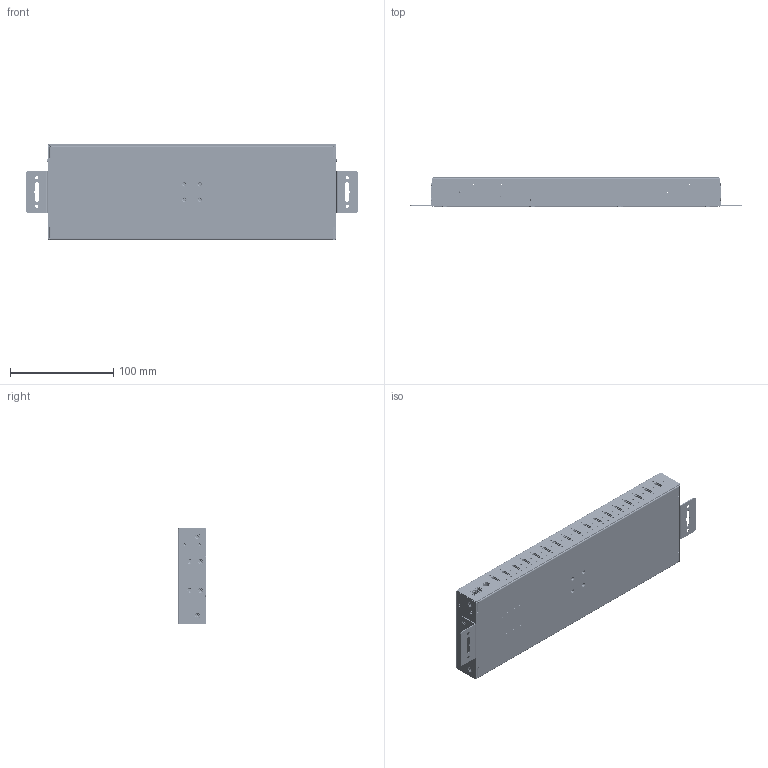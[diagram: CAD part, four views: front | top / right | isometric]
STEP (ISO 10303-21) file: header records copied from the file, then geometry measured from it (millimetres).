
FILE_DESCRIPTION(/* description */ (''),/* implementation_level */ '2;1');
FILE_NAME(/* name */ 'GM-HU316C-RM_Model3D_JWV1.step',/* time_stamp */ '2025-02-04T12:10:42-05:00',/* author */ (''),/* organization */ (''),/* preprocessor_version */ 'ST-DEVELOPER v20',/* originating_system */ 'Autodesk Translation Framework v13.20.0.188',/* authorisation */ '');
FILE_SCHEMA (('AUTOMOTIVE_DESIGN { 1 0 10303 214 3 1 1 }'));
Length unit declared in the file: millimetre
Products named in the file (14): HT2-C16L_ASM; PCBA-HT2-C16L_ASM; PCBA-HT2-C16L; OQ3_81; DCS0-02000; TM3X4ACRO; MYLAR; USCF-242N-4BM80; PASTER-LED; HT2C16L-TOP-B; HT2C16L-BOT-B; HUBPA30-38-F-B; FM-3X3_8CCRO; FM3X3_8CCRO-A
Assembly tree (69 placements, depth 3):
  HT2-C16L_ASM
    PCBA-HT2-C16L_ASM
      PCBA-HT2-C16L
      OQ3_81
      DCS0-02000
      TM3X4ACRO  x8
      MYLAR
      USCF-242N-4BM80  x17
      PASTER-LED  x17
    HT2C16L-TOP-B
    HT2C16L-BOT-B
    FM-3X3_8CCRO  x14
    HUBPA30-38-F-B  x2
    FM3X3_8CCRO-A  x4
Bounding box: 322 x 28.02 x 93 mm (x, y, z)
Volume: 122308 mm3; surface area: 219627.8 mm2
Topology: 80 solids, 80 shells, 3062 faces, 8135 edges, 5339 vertices
Faces by surface type: plane 1770, cylinder 959, bspline 270, cone 38, torus 24, sphere 1
Full cylindrical faces by diameter (mm): 1.1 x1, 1.2 x17, 1.3 x1, 1.6 x51, 2 x83, 2.5 x31, 2.6 x22, 3 x90, 3.05 x8, 3.2 x12, 4.1 x8, 4.2 x14, 4.5 x16, 6.5 x1, 6.6 x1, 7 x1
Entity records: 41457 total; most frequent: CARTESIAN_POINT 14447, DIRECTION 5459, ORIENTED_EDGE 5256, EDGE_CURVE 2628, AXIS2_PLACEMENT_3D 1924, VERTEX_POINT 1707, LINE 1611, VECTOR 1611
